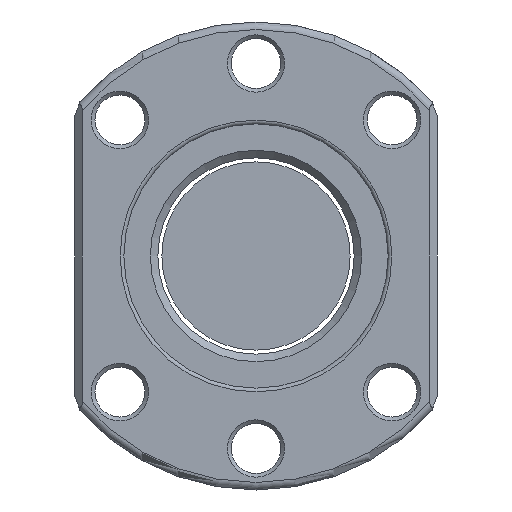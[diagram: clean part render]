
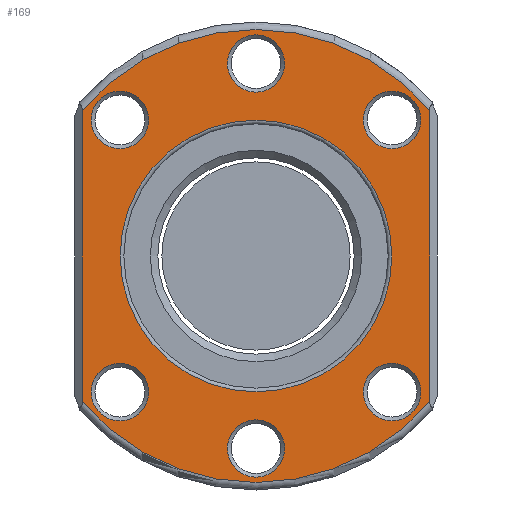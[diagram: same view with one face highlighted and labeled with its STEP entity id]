
A CAD part, front view. The second image highlights one B-rep face of the part: STEP entity #169.
In plain terms, the highlighted planar face has unit normal (0, -1, 0).
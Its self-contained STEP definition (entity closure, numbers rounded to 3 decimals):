
#60=LINE('',#1137,#84);
#61=LINE('',#1141,#85);
#84=VECTOR('',#920,1.);
#85=VECTOR('',#923,1.);
#132=PLANE('',#802);
#169=ADVANCED_FACE('',(#234,#235,#236,#237,#238,#239,#240,#241),#132,.T.);
#234=FACE_BOUND('',#314,.T.);
#235=FACE_BOUND('',#315,.T.);
#236=FACE_BOUND('',#316,.T.);
#237=FACE_BOUND('',#317,.T.);
#238=FACE_BOUND('',#318,.T.);
#239=FACE_BOUND('',#319,.T.);
#240=FACE_BOUND('',#320,.T.);
#241=FACE_BOUND('',#321,.T.);
#314=EDGE_LOOP('',(#410));
#315=EDGE_LOOP('',(#411));
#316=EDGE_LOOP('',(#412));
#317=EDGE_LOOP('',(#413));
#318=EDGE_LOOP('',(#414));
#319=EDGE_LOOP('',(#415));
#320=EDGE_LOOP('',(#416));
#321=EDGE_LOOP('',(#417,#418,#419,#420));
#410=ORIENTED_EDGE('',*,*,#653,.T.);
#411=ORIENTED_EDGE('',*,*,#654,.T.);
#412=ORIENTED_EDGE('',*,*,#655,.T.);
#413=ORIENTED_EDGE('',*,*,#656,.T.);
#414=ORIENTED_EDGE('',*,*,#657,.T.);
#415=ORIENTED_EDGE('',*,*,#658,.T.);
#416=ORIENTED_EDGE('',*,*,#659,.T.);
#417=ORIENTED_EDGE('',*,*,#660,.T.);
#418=ORIENTED_EDGE('',*,*,#661,.T.);
#419=ORIENTED_EDGE('',*,*,#662,.T.);
#420=ORIENTED_EDGE('',*,*,#663,.T.);
#582=VERTEX_POINT('',#1121);
#583=VERTEX_POINT('',#1123);
#584=VERTEX_POINT('',#1125);
#585=VERTEX_POINT('',#1127);
#586=VERTEX_POINT('',#1129);
#587=VERTEX_POINT('',#1131);
#588=VERTEX_POINT('',#1133);
#589=VERTEX_POINT('',#1135);
#590=VERTEX_POINT('',#1136);
#591=VERTEX_POINT('',#1138);
#592=VERTEX_POINT('',#1140);
#653=EDGE_CURVE('',#582,#582,#740,.T.);
#654=EDGE_CURVE('',#583,#583,#741,.T.);
#655=EDGE_CURVE('',#584,#584,#742,.T.);
#656=EDGE_CURVE('',#585,#585,#743,.T.);
#657=EDGE_CURVE('',#586,#586,#744,.T.);
#658=EDGE_CURVE('',#587,#587,#745,.T.);
#659=EDGE_CURVE('',#588,#588,#746,.T.);
#660=EDGE_CURVE('',#589,#590,#747,.T.);
#661=EDGE_CURVE('',#590,#591,#60,.T.);
#662=EDGE_CURVE('',#591,#592,#748,.T.);
#663=EDGE_CURVE('',#592,#589,#61,.T.);
#740=CIRCLE('',#793,3.8);
#741=CIRCLE('',#794,3.8);
#742=CIRCLE('',#795,3.8);
#743=CIRCLE('',#796,3.8);
#744=CIRCLE('',#797,3.8);
#745=CIRCLE('',#798,3.8);
#746=CIRCLE('',#799,18.);
#747=CIRCLE('',#800,30.);
#748=CIRCLE('',#801,30.);
#793=AXIS2_PLACEMENT_3D('',#1120,#904,#905);
#794=AXIS2_PLACEMENT_3D('',#1122,#906,#907);
#795=AXIS2_PLACEMENT_3D('',#1124,#908,#909);
#796=AXIS2_PLACEMENT_3D('',#1126,#910,#911);
#797=AXIS2_PLACEMENT_3D('',#1128,#912,#913);
#798=AXIS2_PLACEMENT_3D('',#1130,#914,#915);
#799=AXIS2_PLACEMENT_3D('',#1132,#916,#917);
#800=AXIS2_PLACEMENT_3D('',#1134,#918,#919);
#801=AXIS2_PLACEMENT_3D('',#1139,#921,#922);
#802=AXIS2_PLACEMENT_3D('',#1142,#924,#925);
#904=DIRECTION('',(0.,1.,0.));
#905=DIRECTION('',(0.,0.,-1.));
#906=DIRECTION('',(0.,1.,0.));
#907=DIRECTION('',(0.,0.,-1.));
#908=DIRECTION('',(0.,1.,0.));
#909=DIRECTION('',(0.,0.,-1.));
#910=DIRECTION('',(0.,1.,0.));
#911=DIRECTION('',(0.,0.,-1.));
#912=DIRECTION('',(0.,1.,0.));
#913=DIRECTION('',(0.,0.,-1.));
#914=DIRECTION('',(0.,1.,0.));
#915=DIRECTION('',(0.,0.,-1.));
#916=DIRECTION('',(0.,1.,0.));
#917=DIRECTION('',(0.,0.,-1.));
#918=DIRECTION('',(0.,-1.,0.));
#919=DIRECTION('',(0.,0.,-1.));
#920=DIRECTION('',(0.,0.,-1.));
#921=DIRECTION('',(0.,-1.,0.));
#922=DIRECTION('',(0.,0.,-1.));
#923=DIRECTION('',(0.,0.,1.));
#924=DIRECTION('',(0.,-1.,0.));
#925=DIRECTION('',(0.,0.,-1.));
#1120=CARTESIAN_POINT('',(18.031,0.,-18.031));
#1121=CARTESIAN_POINT('',(18.031,0.,-21.831));
#1122=CARTESIAN_POINT('',(0.,0.,-25.5));
#1123=CARTESIAN_POINT('',(0.,0.,-29.3));
#1124=CARTESIAN_POINT('',(-18.031,0.,18.031));
#1125=CARTESIAN_POINT('',(-18.031,0.,14.231));
#1126=CARTESIAN_POINT('',(0.,0.,25.5));
#1127=CARTESIAN_POINT('',(0.,0.,21.7));
#1128=CARTESIAN_POINT('',(-18.031,0.,-18.031));
#1129=CARTESIAN_POINT('',(-18.031,0.,-21.831));
#1130=CARTESIAN_POINT('',(18.031,0.,18.031));
#1131=CARTESIAN_POINT('',(18.031,0.,14.231));
#1132=CARTESIAN_POINT('',(0.,0.,0.));
#1133=CARTESIAN_POINT('',(0.,0.,-18.));
#1134=CARTESIAN_POINT('',(0.,0.,0.));
#1135=CARTESIAN_POINT('',(23.,0.,19.261));
#1136=CARTESIAN_POINT('',(-23.,0.,19.261));
#1137=CARTESIAN_POINT('',(-23.,0.,-18.));
#1138=CARTESIAN_POINT('',(-23.,0.,-19.261));
#1139=CARTESIAN_POINT('',(0.,0.,0.));
#1140=CARTESIAN_POINT('',(23.,0.,-19.261));
#1141=CARTESIAN_POINT('',(23.,0.,18.));
#1142=CARTESIAN_POINT('',(0.,0.,0.));
